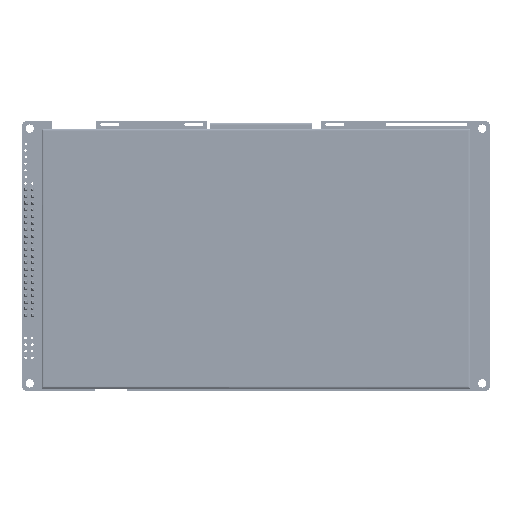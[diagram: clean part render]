
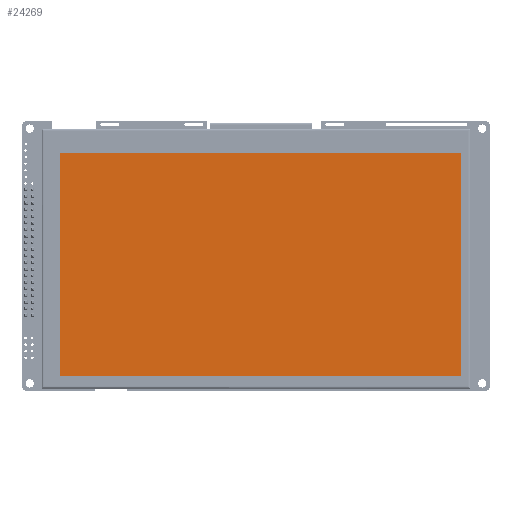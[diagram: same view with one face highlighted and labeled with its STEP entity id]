
A CAD part, top view. The second image highlights one B-rep face of the part: STEP entity #24269.
In plain terms, the highlighted planar face has unit normal (0, 0, 1).
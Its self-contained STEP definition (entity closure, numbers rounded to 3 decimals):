
#10208 = EDGE_CURVE ( 'NONE', #210396, #68320, #79111, .T. ) ;
#17980 = PLANE ( 'NONE',  #474488 ) ;
#24269 = ADVANCED_FACE ( 'NONE', ( #351824 ), #17980, .T. ) ;
#24415 = VECTOR ( 'NONE', #140410, 1000. ) ;
#38947 = CARTESIAN_POINT ( 'NONE',  ( 3.78, 9.22, -0.09 ) ) ;
#60641 = CARTESIAN_POINT ( 'NONE',  ( 3.78, 95.14, -0.09 ) ) ;
#62119 = EDGE_LOOP ( 'NONE', ( #237335, #338271, #122982, #219569 ) ) ;
#68320 = VERTEX_POINT ( 'NONE', #84347 ) ;
#79111 = LINE ( 'NONE', #227728, #413523 ) ;
#84347 = CARTESIAN_POINT ( 'NONE',  ( 3.78, 95.14, -0.09 ) ) ;
#96062 = DIRECTION ( 'NONE',  ( 0., 0., 1. ) ) ;
#122982 = ORIENTED_EDGE ( 'NONE', *, *, #372852, .T. ) ;
#130097 = CARTESIAN_POINT ( 'NONE',  ( 157.86, 95.14, -0.09 ) ) ;
#140410 = DIRECTION ( 'NONE',  ( 1., 0., 0. ) ) ;
#148691 = EDGE_CURVE ( 'NONE', #317572, #436725, #325539, .T. ) ;
#188883 = CARTESIAN_POINT ( 'NONE',  ( 157.86, 9.22, -0.09 ) ) ;
#209283 = DIRECTION ( 'NONE',  ( 0., -1., 0. ) ) ;
#210396 = VERTEX_POINT ( 'NONE', #262929 ) ;
#216607 = EDGE_CURVE ( 'NONE', #68320, #317572, #394259, .T. ) ;
#219569 = ORIENTED_EDGE ( 'NONE', *, *, #10208, .T. ) ;
#227728 = CARTESIAN_POINT ( 'NONE',  ( 3.78, 95.14, -0.09 ) ) ;
#237335 = ORIENTED_EDGE ( 'NONE', *, *, #216607, .T. ) ;
#244648 = DIRECTION ( 'NONE',  ( 1., 0., 0. ) ) ;
#262929 = CARTESIAN_POINT ( 'NONE',  ( 157.86, 95.14, -0.09 ) ) ;
#278710 = DIRECTION ( 'NONE',  ( 0., 1., 0. ) ) ;
#303442 = VECTOR ( 'NONE', #209283, 1000. ) ;
#317572 = VERTEX_POINT ( 'NONE', #38947 ) ;
#325539 = LINE ( 'NONE', #473940, #24415 ) ;
#338271 = ORIENTED_EDGE ( 'NONE', *, *, #148691, .T. ) ;
#351824 = FACE_OUTER_BOUND ( 'NONE', #62119, .T. ) ;
#372852 = EDGE_CURVE ( 'NONE', #436725, #210396, #463606, .T. ) ;
#376255 = DIRECTION ( 'NONE',  ( -1., 0., 0. ) ) ;
#394259 = LINE ( 'NONE', #60641, #303442 ) ;
#407341 = VECTOR ( 'NONE', #278710, 1000. ) ;
#413523 = VECTOR ( 'NONE', #376255, 1000. ) ;
#429594 = CARTESIAN_POINT ( 'NONE',  ( 0., 0., -0.09 ) ) ;
#436725 = VERTEX_POINT ( 'NONE', #188883 ) ;
#463606 = LINE ( 'NONE', #130097, #407341 ) ;
#473940 = CARTESIAN_POINT ( 'NONE',  ( 3.78, 9.22, -0.09 ) ) ;
#474488 = AXIS2_PLACEMENT_3D ( 'NONE', #429594, #96062, #244648 ) ;
